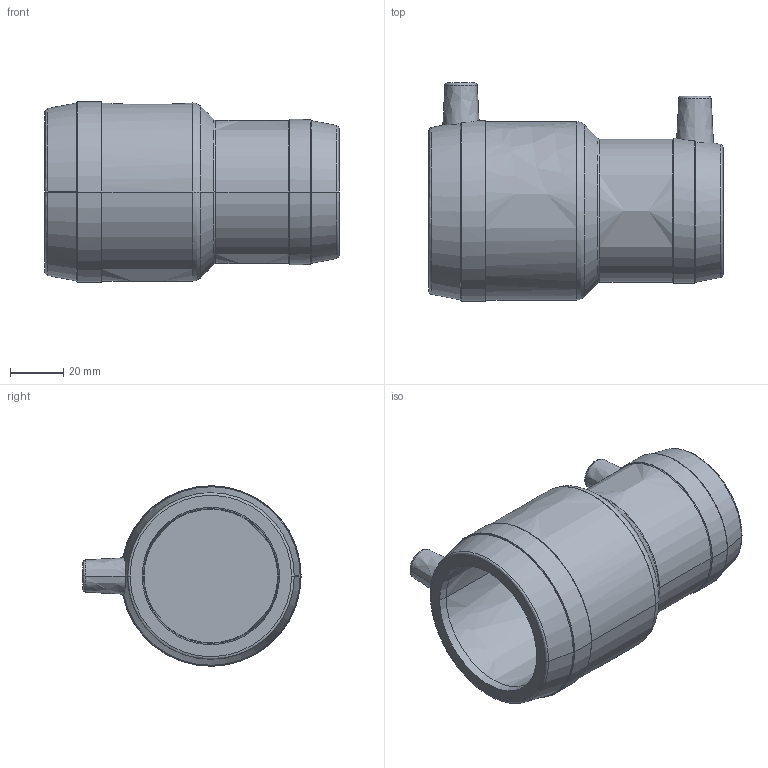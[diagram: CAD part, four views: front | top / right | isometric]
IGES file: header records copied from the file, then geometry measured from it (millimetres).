
Start section:  PTC IGES file: mr-stopp_mertik_d50-40_01.igs
Global section: file name: mr-stopp_mertik_d50-40_01.igs; native system: Pro/ENGINEER by Parametric Technology Corporation; preprocessor: 2011490; author: mtunjic; organization: Unknown; date: 20130819.090346; units: millimetre
Bounding box: 110 x 81.62 x 67.5 mm (x, y, z)
Surface area: 42366 mm2 (no closed solid volume)
Topology: 0 solids, 0 shells, 191 faces, 950 edges, 950 vertices
Faces by surface type: bspline 191
